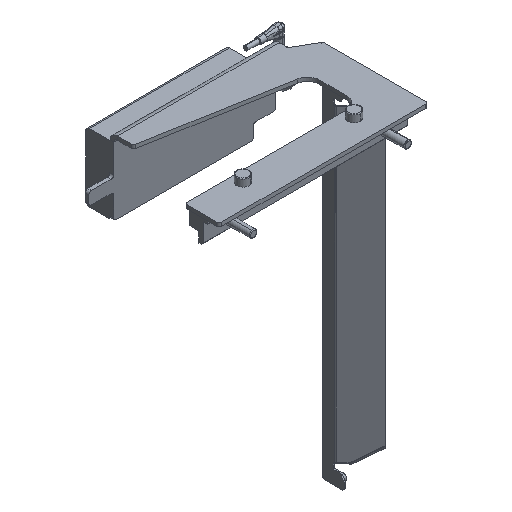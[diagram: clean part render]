
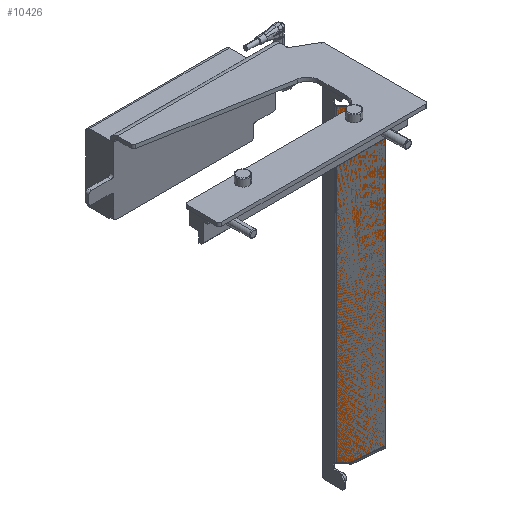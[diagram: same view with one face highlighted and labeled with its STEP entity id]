
A CAD part, isometric view. The second image highlights one B-rep face of the part: STEP entity #10426.
In plain terms, the highlighted planar face has unit normal (-0.707, -0.707, 0).
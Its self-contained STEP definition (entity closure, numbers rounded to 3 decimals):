
#56 = CARTESIAN_POINT ( 'NONE',  ( 105.592, 41.58, -265.453 ) ) ;
#518 = EDGE_CURVE ( 'NONE', #14911, #30914, #23883, .T. ) ;
#560 = CARTESIAN_POINT ( 'NONE',  ( 76.543, 70.629, -293. ) ) ;
#784 = AXIS2_PLACEMENT_3D ( 'NONE', #560, #19678, #7732 ) ;
#818 = VERTEX_POINT ( 'NONE', #25691 ) ;
#2261 = DIRECTION ( 'NONE',  ( 0.707, -0.707, 0. ) ) ;
#2628 = CARTESIAN_POINT ( 'NONE',  ( 76.543, 70.629, -27. ) ) ;
#3290 = VECTOR ( 'NONE', #26963, 1000. ) ;
#4342 = LINE ( 'NONE', #6209, #5132 ) ;
#4634 = EDGE_CURVE ( 'NONE', #30914, #29205, #8313, .T. ) ;
#4648 = ORIENTED_EDGE ( 'NONE', *, *, #4634, .T. ) ;
#5132 = VECTOR ( 'NONE', #28034, 1000. ) ;
#6016 = VECTOR ( 'NONE', #22674, 1000. ) ;
#6209 = CARTESIAN_POINT ( 'NONE',  ( 161.715, -14.544, -84.371 ) ) ;
#6725 = CARTESIAN_POINT ( 'NONE',  ( 86.086, 61.086, -27. ) ) ;
#7732 = DIRECTION ( 'NONE',  ( -0.707, 0.707, 0. ) ) ;
#7880 = VECTOR ( 'NONE', #2261, 1000. ) ;
#8274 = CARTESIAN_POINT ( 'NONE',  ( 91.45, 55.722, -277. ) ) ;
#8313 = LINE ( 'NONE', #13090, #6016 ) ;
#8834 = LINE ( 'NONE', #19911, #23691 ) ;
#10426 = ADVANCED_FACE ( 'NONE', ( #21077 ), #22301, .F. ) ;
#10523 = EDGE_LOOP ( 'NONE', ( #21489, #20589, #12642, #30658, #4648, #20255 ) ) ;
#10992 = VERTEX_POINT ( 'NONE', #6725 ) ;
#12501 = CARTESIAN_POINT ( 'NONE',  ( 105.592, 41.58, -38.547 ) ) ;
#12642 = ORIENTED_EDGE ( 'NONE', *, *, #30406, .F. ) ;
#12862 = DIRECTION ( 'NONE',  ( 0., 0., 1. ) ) ;
#13090 = CARTESIAN_POINT ( 'NONE',  ( 75.371, 71.801, -290.129 ) ) ;
#14738 = LINE ( 'NONE', #30231, #31091 ) ;
#14911 = VERTEX_POINT ( 'NONE', #19451 ) ;
#15474 = EDGE_CURVE ( 'NONE', #818, #10992, #15503, .T. ) ;
#15503 = LINE ( 'NONE', #2628, #3290 ) ;
#16898 = VERTEX_POINT ( 'NONE', #12501 ) ;
#19451 = CARTESIAN_POINT ( 'NONE',  ( 86.086, 61.086, -277. ) ) ;
#19678 = DIRECTION ( 'NONE',  ( 0.707, 0.707, 0. ) ) ;
#19911 = CARTESIAN_POINT ( 'NONE',  ( 105.592, 41.58, -293. ) ) ;
#20255 = ORIENTED_EDGE ( 'NONE', *, *, #22352, .T. ) ;
#20589 = ORIENTED_EDGE ( 'NONE', *, *, #15474, .T. ) ;
#21077 = FACE_OUTER_BOUND ( 'NONE', #10523, .T. ) ;
#21489 = ORIENTED_EDGE ( 'NONE', *, *, #25209, .F. ) ;
#22301 = PLANE ( 'NONE',  #784 ) ;
#22352 = EDGE_CURVE ( 'NONE', #29205, #16898, #8834, .T. ) ;
#22674 = DIRECTION ( 'NONE',  ( 0.612, -0.612, 0.5 ) ) ;
#23392 = DIRECTION ( 'NONE',  ( 0., 0., 1. ) ) ;
#23691 = VECTOR ( 'NONE', #12862, 1000. ) ;
#23883 = LINE ( 'NONE', #24026, #7880 ) ;
#24026 = CARTESIAN_POINT ( 'NONE',  ( 76.543, 70.629, -277. ) ) ;
#25209 = EDGE_CURVE ( 'NONE', #818, #16898, #4342, .T. ) ;
#25691 = CARTESIAN_POINT ( 'NONE',  ( 91.45, 55.722, -27. ) ) ;
#26963 = DIRECTION ( 'NONE',  ( -0.707, 0.707, 0. ) ) ;
#28034 = DIRECTION ( 'NONE',  ( 0.612, -0.612, -0.5 ) ) ;
#29205 = VERTEX_POINT ( 'NONE', #56 ) ;
#30231 = CARTESIAN_POINT ( 'NONE',  ( 86.086, 61.086, -27. ) ) ;
#30406 = EDGE_CURVE ( 'NONE', #14911, #10992, #14738, .T. ) ;
#30658 = ORIENTED_EDGE ( 'NONE', *, *, #518, .T. ) ;
#30914 = VERTEX_POINT ( 'NONE', #8274 ) ;
#31091 = VECTOR ( 'NONE', #23392, 1000. ) ;
